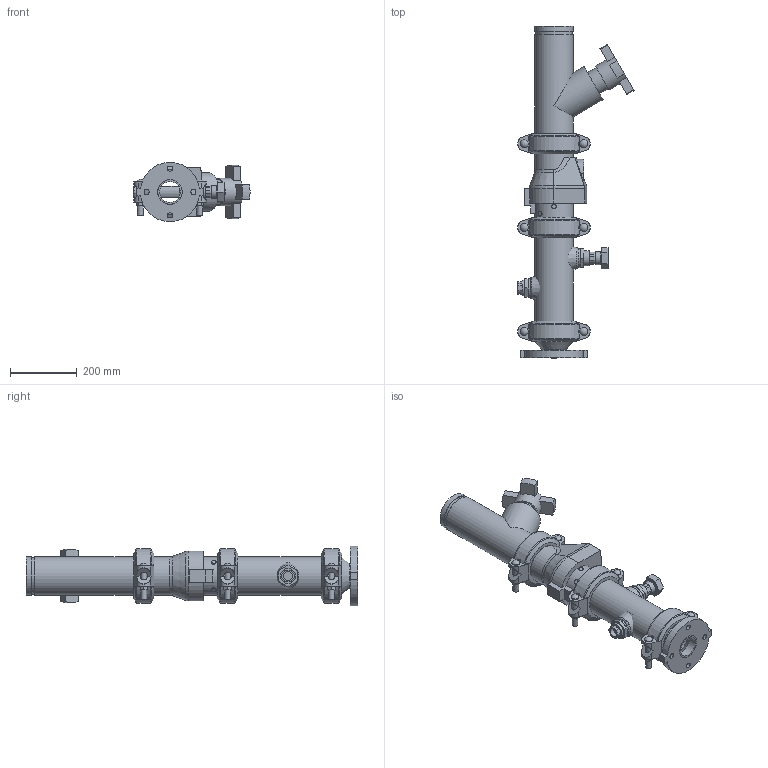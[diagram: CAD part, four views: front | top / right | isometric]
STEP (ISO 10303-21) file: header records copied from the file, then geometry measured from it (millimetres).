
FILE_DESCRIPTION(/* description */ ('VIC DVI PUMP DROP VERT S/383 (OGSxFLG) (S/924-1.25)','CAx-IF Rec.Pracs.---Representation and Presentation of Product Manufacturing Information (PMI)---4.0---2014-10-13'),/* implementation_level */ '2;1');
FILE_NAME(/* name */ 'C:\Users\Public\Documents\Victaulic.Temp\A849\Victaulic_IPS_Vertical DVI_CL 150_Series 383 (OGSxFLG)_924 (1.25)_04.0x02.5 (100x65).stp',/* time_stamp */ '2022-07-25T11:38:53+02:00',/* author */ ('Vjadhav'),/* organization */ ('Victaulic'),/* preprocessor_version */ 'ST-DEVELOPER v18',/* originating_system */ 'Autodesk Inventor 2020',/* authorisation */ '');
FILE_SCHEMA (('AP242_MANAGED_MODEL_BASED_3D_ENGINEERING_MIM_LF { 1 0 10303 442 1 1 4 }'));
Length unit declared in the file: inch
Products named in the file (9): 383_924 (1.25)-04.0x02.5; 741-02.5; 050-04.0x02.5; Pipe-04.0; 177N-04.0; 789-04.0; 779-04.0; 924-04.0x01.25; 923-04.0x0.75
Assembly tree (10 placements, depth 2):
  383_924 (1.25)-04.0x02.5
    741-02.5
    050-04.0x02.5
    177N-04.0  x3
    Pipe-04.0
    789-04.0
    779-04.0
    924-04.0x01.25
    923-04.0x0.75
Bounding box: 347.73 x 993.9 x 177.16 mm (x, y, z)
Volume: 7542170.9 mm3; surface area: 1251419.4 mm2
Topology: 10 solids, 11 shells, 547 faces, 1460 edges, 975 vertices
Faces by surface type: plane 322, cylinder 180, cone 19, torus 18, sphere 6, bspline 2
Full cylindrical faces by diameter (mm): 13.716 x2, 15.875 x4, 17.424 x6, 21.336 x1, 23.495 x6, 26.67 x2, 38.608 x1, 42.164 x1, 45.974 x4, 48.514 x1, 55.626 x2, 62.713 x1, 69.088 x1, 72.39 x1, 73.025 x3, 82.55 x1, 101.6 x3, 102.26 x4, 110.084 x7, 114.3 x19
Entity records: 12448 total; most frequent: CARTESIAN_POINT 2503, DIRECTION 2046, ORIENTED_EDGE 1868, EDGE_CURVE 934, AXIS2_PLACEMENT_3D 776, VERTEX_POINT 631, LINE 494, VECTOR 494
